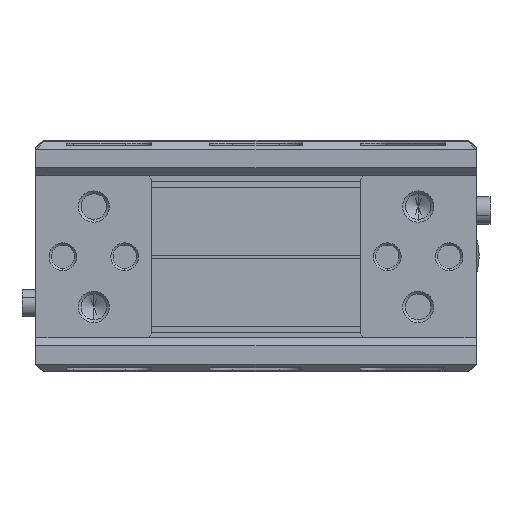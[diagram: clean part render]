
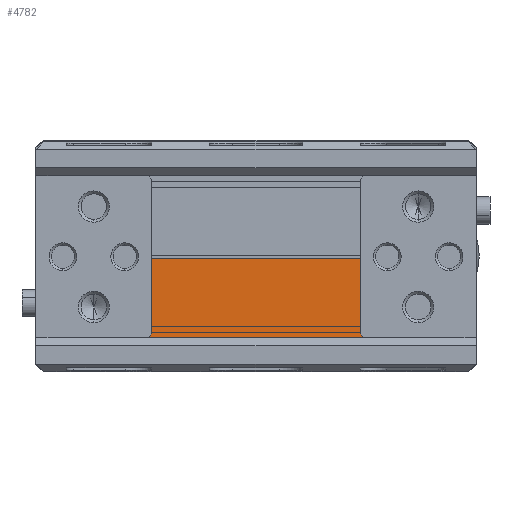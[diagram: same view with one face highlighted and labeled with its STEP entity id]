
A CAD part, front view. The second image highlights one B-rep face of the part: STEP entity #4782.
In plain terms, the highlighted planar face has unit normal (0, -1, 0) as drawn and (0, 1, 0) by its records, which use the part's own axes.
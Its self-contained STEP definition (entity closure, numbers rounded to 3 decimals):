
#1169 = VERTEX_POINT ( 'NONE', #32348 ) ;
#2361 = CARTESIAN_POINT ( 'NONE',  ( -50.379, 34.763, -20.178 ) ) ;
#2940 = DIRECTION ( 'NONE',  ( 0., 0., 1. ) ) ;
#2955 = CARTESIAN_POINT ( 'NONE',  ( -21.879, 34.763, -20.178 ) ) ;
#4782 = ADVANCED_FACE ( 'NONE', ( #40483 ), #53578, .T. ) ;
#7120 = EDGE_CURVE ( 'NONE', #1169, #65233, #52566, .T. ) ;
#10339 = DIRECTION ( 'NONE',  ( -1., 0., 0. ) ) ;
#15330 = DIRECTION ( 'NONE',  ( 0.707, 0., -0.707 ) ) ;
#16131 = LINE ( 'NONE', #26834, #64817 ) ;
#16790 = ORIENTED_EDGE ( 'NONE', *, *, #7120, .T. ) ;
#22347 = CARTESIAN_POINT ( 'NONE',  ( -5.576, 34.763, -20.178 ) ) ;
#22723 = VERTEX_POINT ( 'NONE', #53424 ) ;
#25668 = DIRECTION ( 'NONE',  ( -1., 0., 0. ) ) ;
#26834 = CARTESIAN_POINT ( 'NONE',  ( -50.379, 34.763, -18.678 ) ) ;
#26847 = LINE ( 'NONE', #2955, #31238 ) ;
#27289 = VERTEX_POINT ( 'NONE', #66214 ) ;
#31238 = VECTOR ( 'NONE', #15330, 1000. ) ;
#32055 = LINE ( 'NONE', #56315, #53457 ) ;
#32348 = CARTESIAN_POINT ( 'NONE',  ( -21.879, 34.763, -20.178 ) ) ;
#35006 = CARTESIAN_POINT ( 'NONE',  ( -50.379, 34.763, -9.878 ) ) ;
#40095 = DIRECTION ( 'NONE',  ( 0., 1., 0. ) ) ;
#40483 = FACE_OUTER_BOUND ( 'NONE', #42924, .T. ) ;
#40519 = ORIENTED_EDGE ( 'NONE', *, *, #60238, .T. ) ;
#40871 = ORIENTED_EDGE ( 'NONE', *, *, #69809, .F. ) ;
#42924 = EDGE_LOOP ( 'NONE', ( #40871, #63948, #16790, #40519, #48160 ) ) ;
#48160 = ORIENTED_EDGE ( 'NONE', *, *, #60142, .F. ) ;
#52566 = LINE ( 'NONE', #22347, #53465 ) ;
#53424 = CARTESIAN_POINT ( 'NONE',  ( -22.379, 34.763, -19.678 ) ) ;
#53457 = VECTOR ( 'NONE', #25668, 1000. ) ;
#53465 = VECTOR ( 'NONE', #10339, 1000. ) ;
#53578 = PLANE ( 'NONE',  #59973 ) ;
#54204 = EDGE_CURVE ( 'NONE', #22723, #1169, #26847, .T. ) ;
#56315 = CARTESIAN_POINT ( 'NONE',  ( -5.232, 34.763, -9.878 ) ) ;
#56419 = LINE ( 'NONE', #67145, #72228 ) ;
#59973 = AXIS2_PLACEMENT_3D ( 'NONE', #76246, #40095, #77051 ) ;
#60142 = EDGE_CURVE ( 'NONE', #27289, #61240, #32055, .T. ) ;
#60238 = EDGE_CURVE ( 'NONE', #65233, #61240, #16131, .T. ) ;
#61240 = VERTEX_POINT ( 'NONE', #35006 ) ;
#63948 = ORIENTED_EDGE ( 'NONE', *, *, #54204, .T. ) ;
#64817 = VECTOR ( 'NONE', #2940, 1000. ) ;
#65233 = VERTEX_POINT ( 'NONE', #2361 ) ;
#66214 = CARTESIAN_POINT ( 'NONE',  ( -22.379, 34.763, -9.878 ) ) ;
#67145 = CARTESIAN_POINT ( 'NONE',  ( -22.379, 34.763, 0.822 ) ) ;
#67910 = DIRECTION ( 'NONE',  ( 0., 0., 1. ) ) ;
#69809 = EDGE_CURVE ( 'NONE', #22723, #27289, #56419, .T. ) ;
#72228 = VECTOR ( 'NONE', #67910, 1000. ) ;
#76246 = CARTESIAN_POINT ( 'NONE',  ( -29.379, 34.763, -15.228 ) ) ;
#77051 = DIRECTION ( 'NONE',  ( -1., 0., 0. ) ) ;
